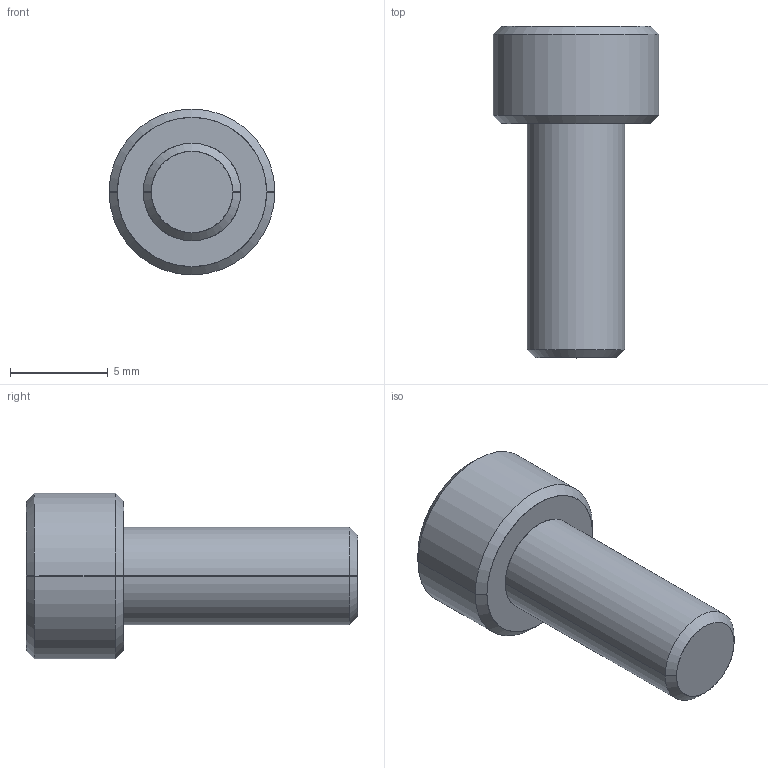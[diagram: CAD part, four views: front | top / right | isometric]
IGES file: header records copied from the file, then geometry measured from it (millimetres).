
Start section: SolidWorks IGES file using analytic representation for surfaces
Global section: file name: D:\Cleonir_arquivos\MT_15_07\Parafuso Allen Cabeça Cilindrica\CLM05012.igs; native system: SolidWorks 2013; preprocessor: SolidWorks 2013; author: Cleonir; date: 130730.125935; units: millimetre
Bounding box: 8.5 x 17 x 8.5 mm (x, y, z)
Surface area: 464.3 mm2 (no closed solid volume)
Topology: 0 solids, 0 shells, 280 faces, 2460 edges, 2460 vertices
Faces by surface type: bspline 262, revolution 18
